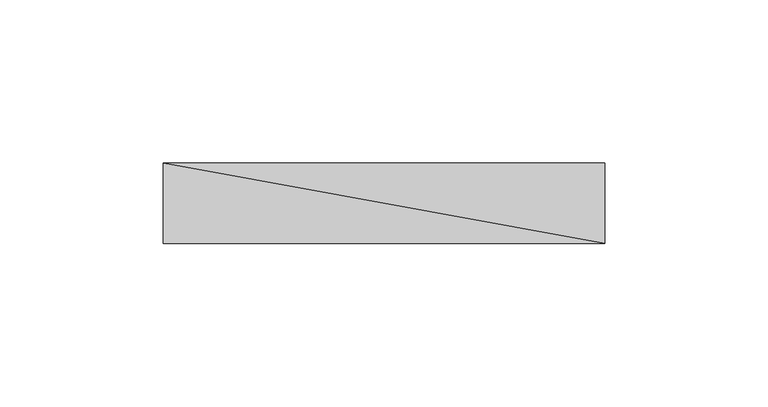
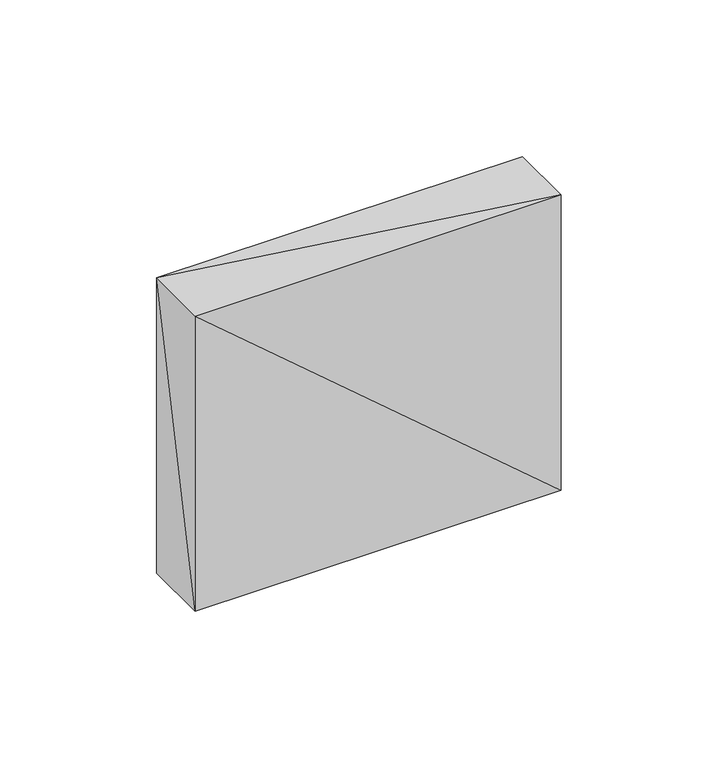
"""IFC4 building model written with IfcOpenShell, lengths in millimetres: geographic element geometry, Enscape AssetDefinition - Intercom 1 : Enscape AssetDefinition - Intercom 1."""

from ifc_helpers import new_model, si_unit, origin, place, context, project, spatial, faceted_brep, source, transform, mapped, element, save


def geographic_element_84c51689(model_context):
    return source(origin(), model_context, "Body", "Brep", [
        faceted_brep([(-67.5000027, -0.05, 58.6679988), (-67.5000027, -24.6200003, 58.6679988), (67.5000027, -24.6200003, 58.6679988), (67.5000027, -0.05, 58.6679988), (-67.5000027, -24.6200003, -56.3319996), (-67.5000027, -0.05, -56.3319996), (67.5000027, -24.6200003, -56.3319996), (67.5000027, -0.05, -56.3319996)], [[[0, 1, 2]], [[0, 2, 3]], [[4, 1, 0]], [[4, 0, 5]], [[6, 2, 1]], [[6, 1, 4]], [[7, 3, 2]], [[7, 2, 6]], [[5, 0, 3]], [[5, 3, 7]], [[6, 4, 5]], [[7, 6, 5]]]),
    ])


if __name__ == "__main__":
    model = new_model("IFC4")
    model_context = context("Model", 3, world=origin())
    ifc_project = project(units=[si_unit("LENGTHUNIT", "METRE", prefix="MILLI")], contexts=[model_context])
    site = spatial("IfcSite", under=ifc_project)
    building = spatial("IfcBuilding", under=site)
    placement = place(None, origin())
    geographic_element_shape = geographic_element_84c51689(model_context)
    element("IfcGeographicElement", 1, ObjectType="Enscape AssetDefinition - Intercom 1 : Enscape AssetDefinition - Intercom 1", at=placement, inside=building, context=model_context, shape_type="MappedRepresentation", body=[
        mapped(geographic_element_shape, transform((0.0, 0.0, 0.0), x_axis=(1.0, 0.0, 0.0), y_axis=(0.0, 1.0, 0.0), z_axis=(0.0, 0.0, 1.0))),
    ])
    save(model, "model.ifc")
